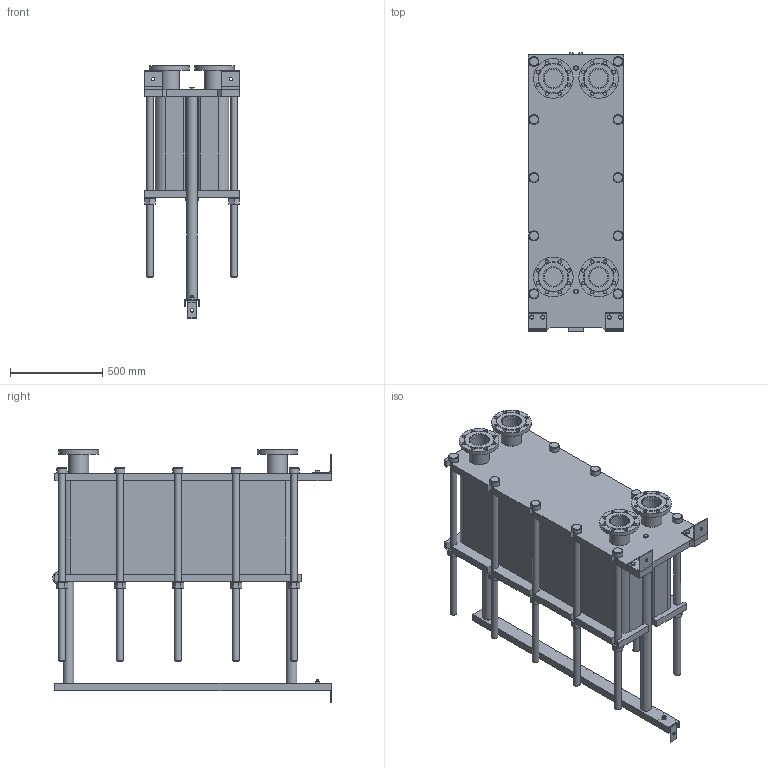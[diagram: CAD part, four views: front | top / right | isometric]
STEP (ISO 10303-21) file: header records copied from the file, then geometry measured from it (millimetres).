
FILE_DESCRIPTION(/* description */ (''),/* implementation_level */ '2;1');
FILE_NAME(/* name */ 'C:\Users\zhuro\Desktop\ENCO\TO\ЭН-04\ЭН-0,5-04-147-1.stp',/* time_stamp */ '2022-06-06T10:58:32+03:00',/* author */ ('zhuro'),/* organization */ (''),/* preprocessor_version */ 'ST-DEVELOPER v18.1',/* originating_system */ 'Autodesk Inventor 2022',/* authorisation */ '');
FILE_SCHEMA (('AUTOMOTIVE_DESIGN { 1 0 10303 214 3 1 1 }'));
Length unit declared in the file: millimetre
Products named in the file (1): ЭН-0,5-04-147-1
Bounding box: 520 x 1510 x 1373.5 mm (x, y, z)
Volume: 327187223.6 mm3; surface area: 9388796.4 mm2
Topology: 45 solids, 45 shells, 668 faces, 1611 edges, 1048 vertices
Faces by surface type: plane 457, cylinder 166, cone 39, torus 6
Full cylindrical faces by diameter (mm): 8 x4, 10 x2, 16 x8, 18 x35, 36 x25, 40 x2, 42 x1, 45 x4, 54 x10, 57 x2, 60 x10, 68 x2, 100 x4, 110 x8, 215 x4
Entity records: 23607 total; most frequent: CARTESIAN_POINT 7348, DIRECTION 3371, ORIENTED_EDGE 3142, EDGE_CURVE 1571, AXIS2_PLACEMENT_3D 1199, VERTEX_POINT 1044, LINE 973, VECTOR 973
